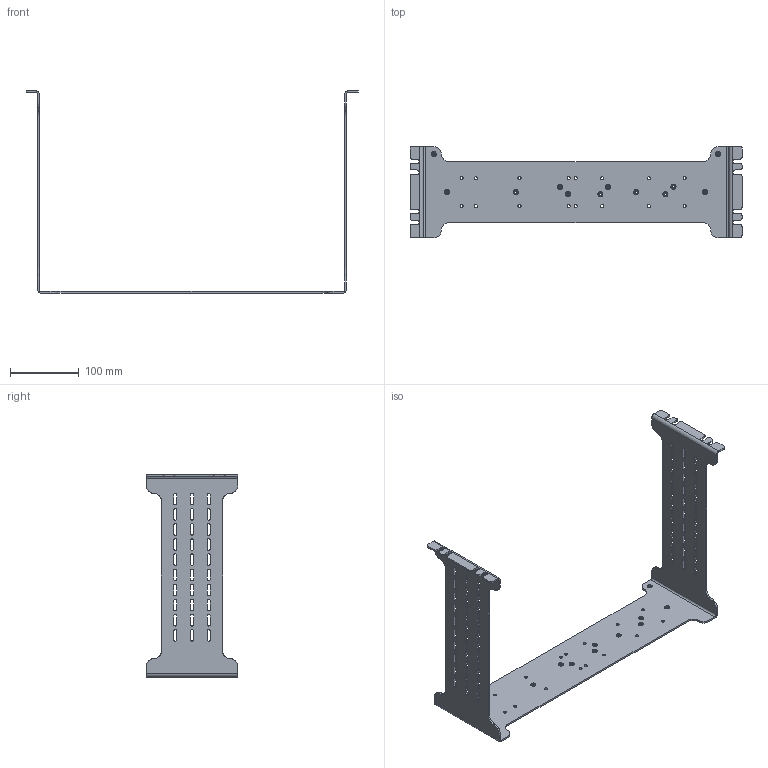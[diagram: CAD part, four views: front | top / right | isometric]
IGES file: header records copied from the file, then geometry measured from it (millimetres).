
Start section:  PTC IGES file: cu_3u_crio_rm_brkt.igs
Global section: file name: cu_3u_crio_rm_brkt.igs; native system: Creo Parametric by PTC Inc.; preprocessor: 2015380; author: dkendric; organization: Unknown; date: 20180111.085321; units: inch
Bounding box: 482.6 x 132.56 x 294.13 mm (x, y, z)
Surface area: 208815.9 mm2 (no closed solid volume)
Topology: 0 solids, 0 shells, 640 faces, 3332 edges, 3332 vertices
Faces by surface type: revolution 420, bspline 220
